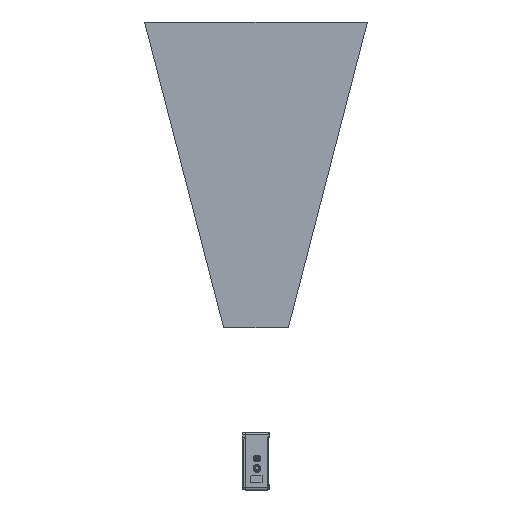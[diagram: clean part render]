
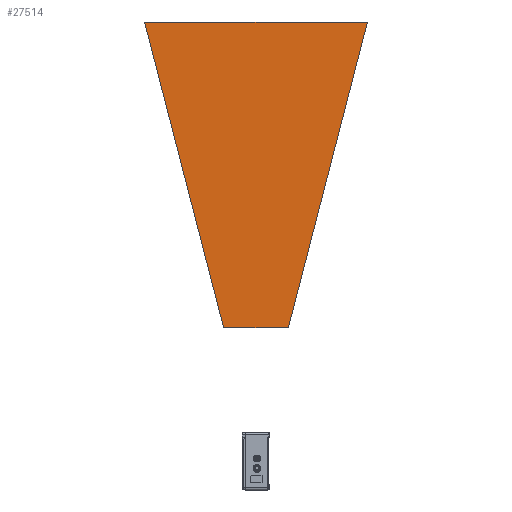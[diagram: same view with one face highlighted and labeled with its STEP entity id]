
A CAD part, left-side view. The second image highlights one B-rep face of the part: STEP entity #27514.
In plain terms, the highlighted planar face has unit normal (1, 0, 0).
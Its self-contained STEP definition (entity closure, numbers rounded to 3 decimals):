
#27475=DIRECTION('',(0.,-0.25,-0.968));
#27476=VECTOR('',#27475,691.975);
#27477=CARTESIAN_POINT('',(-331.575,243.75,962.497));
#27478=LINE('',#27477,#27476);
#27479=DIRECTION('',(0.,-1.,0.));
#27480=VECTOR('',#27479,142.);
#27481=CARTESIAN_POINT('',(-331.575,70.75,292.497));
#27482=LINE('',#27481,#27480);
#27483=DIRECTION('',(0.,-0.25,0.968));
#27484=VECTOR('',#27483,691.975);
#27485=CARTESIAN_POINT('',(-331.575,-71.25,292.497));
#27486=LINE('',#27485,#27484);
#27487=DIRECTION('',(0.,1.,0.));
#27488=VECTOR('',#27487,488.);
#27489=CARTESIAN_POINT('',(-331.575,-244.25,962.497));
#27490=LINE('',#27489,#27488);
#27491=CARTESIAN_POINT('',(-331.575,70.75,292.497));
#27492=CARTESIAN_POINT('',(-331.575,243.75,962.497));
#27493=VERTEX_POINT('',#27491);
#27494=VERTEX_POINT('',#27492);
#27495=CARTESIAN_POINT('',(-331.575,-244.25,962.497));
#27496=VERTEX_POINT('',#27495);
#27497=CARTESIAN_POINT('',(-331.575,-71.25,292.497));
#27498=VERTEX_POINT('',#27497);
#27499=CARTESIAN_POINT('',(-331.575,-3.,0.));
#27500=DIRECTION('',(1.,0.,0.));
#27501=DIRECTION('',(0.,-1.,0.));
#27502=AXIS2_PLACEMENT_3D('',#27499,#27500,#27501);
#27503=PLANE('',#27502);
#27505=ORIENTED_EDGE('',*,*,#27504,.T.);
#27507=ORIENTED_EDGE('',*,*,#27506,.T.);
#27509=ORIENTED_EDGE('',*,*,#27508,.T.);
#27511=ORIENTED_EDGE('',*,*,#27510,.T.);
#27512=EDGE_LOOP('',(#27505,#27507,#27509,#27511));
#27513=FACE_OUTER_BOUND('',#27512,.F.);
#27514=ADVANCED_FACE('',(#27513),#27503,.T.);
#27504=EDGE_CURVE('',#27494,#27493,#27478,.T.);
#27506=EDGE_CURVE('',#27493,#27498,#27482,.T.);
#27508=EDGE_CURVE('',#27498,#27496,#27486,.T.);
#27510=EDGE_CURVE('',#27496,#27494,#27490,.T.);
